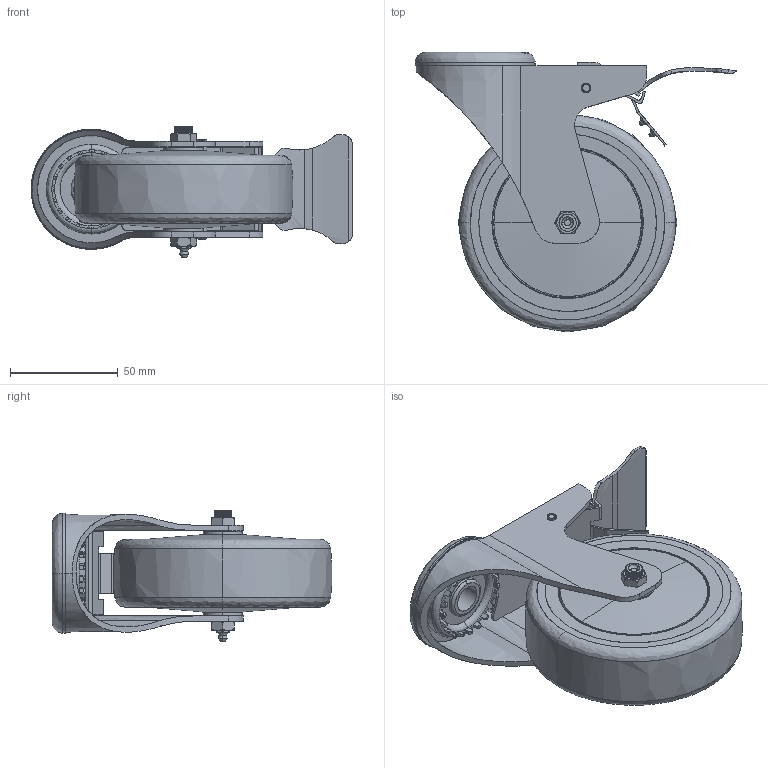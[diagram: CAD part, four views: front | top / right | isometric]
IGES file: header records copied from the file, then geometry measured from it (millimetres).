
Start section: SolidWorks IGES file using analytic representation for surfaces
Global section: file name: \\192.168.10.26\Nimesh\Tyler Manz\Output\2024\2024-09-06\4'' Total Lock Bolt Hole Swivel Caster - Thermoplastic Rubber Wheel\SCC-BHTTL20S414-TPRB 3D IGES.IGS; native system: SolidWorks 2016; preprocessor: SolidWorks 2016; author: kathan.gandhi; date: 240911.102836; units: inch
Bounding box: 149.54 x 130.11 x 61.2 mm (x, y, z)
Surface area: 88467.6 mm2 (no closed solid volume)
Topology: 0 solids, 0 shells, 578 faces, 8137 edges, 8133 vertices
Faces by surface type: bspline 337, revolution 241
